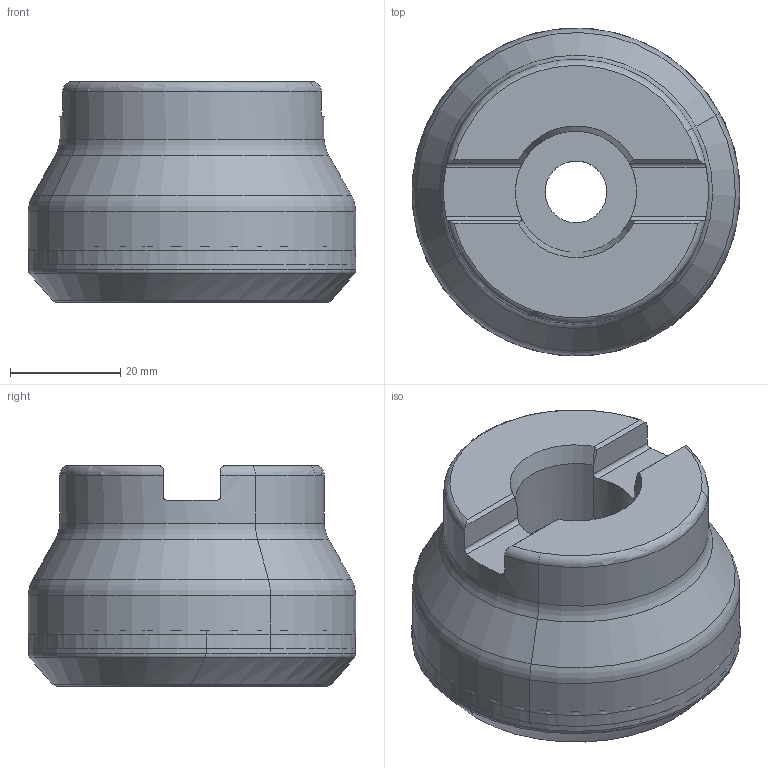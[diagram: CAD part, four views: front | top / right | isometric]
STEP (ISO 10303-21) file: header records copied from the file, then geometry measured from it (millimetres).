
FILE_DESCRIPTION(('CATIA V5 STEP','CAx-IF Rec.Pracs.--- Model Styling and Organization---1.2---2011-12-15'),'2;1');
FILE_NAME('\\nas01\drv1\utils\eitdev\rte\eit\transmagicconvert\db\out\635607951915970547\3106522L.stp','2015-03-01T06:26:38+00:00',('none'),('none'),'CATIA Version 5 Release 21 SP 5 (IN-10)','CATIA V5 STEP AP214','none');
FILE_SCHEMA(('AUTOMOTIVE_DESIGN { 1 0 10303 214 1 1 1 1 }'));
Length unit declared in the file: millimetre
Products named in the file (1): IQ845 FSY D050-04-22-R07
Bounding box: 59.37 x 59.37 x 40 mm (x, y, z)
Volume: 96117.1 mm3; surface area: 18954.8 mm2
Topology: 2 solids, 2 shells, 83 faces, 188 edges, 108 vertices
Faces by surface type: revolution 32, plane 15, torus 14, cylinder 12, cone 10
Entity records: 2726 total; most frequent: CARTESIAN_POINT 1070, ORIENTED_EDGE 376, DIRECTION 220, EDGE_CURVE 188, AXIS2_PLACEMENT_3D 115, VERTEX_POINT 108, B_SPLINE_CURVE_WITH_KNOTS 100, EDGE_LOOP 86
